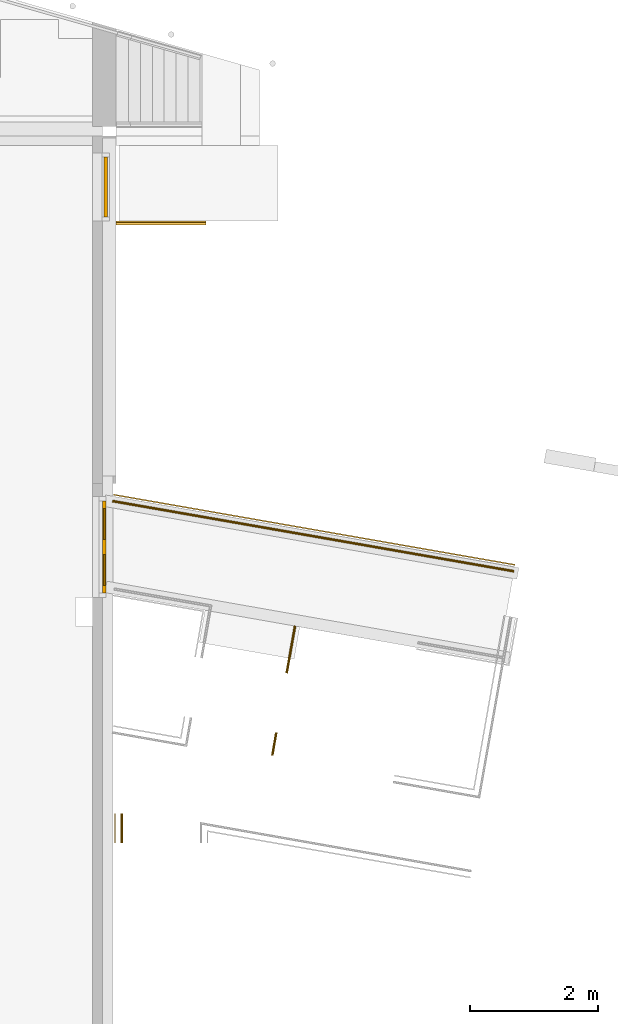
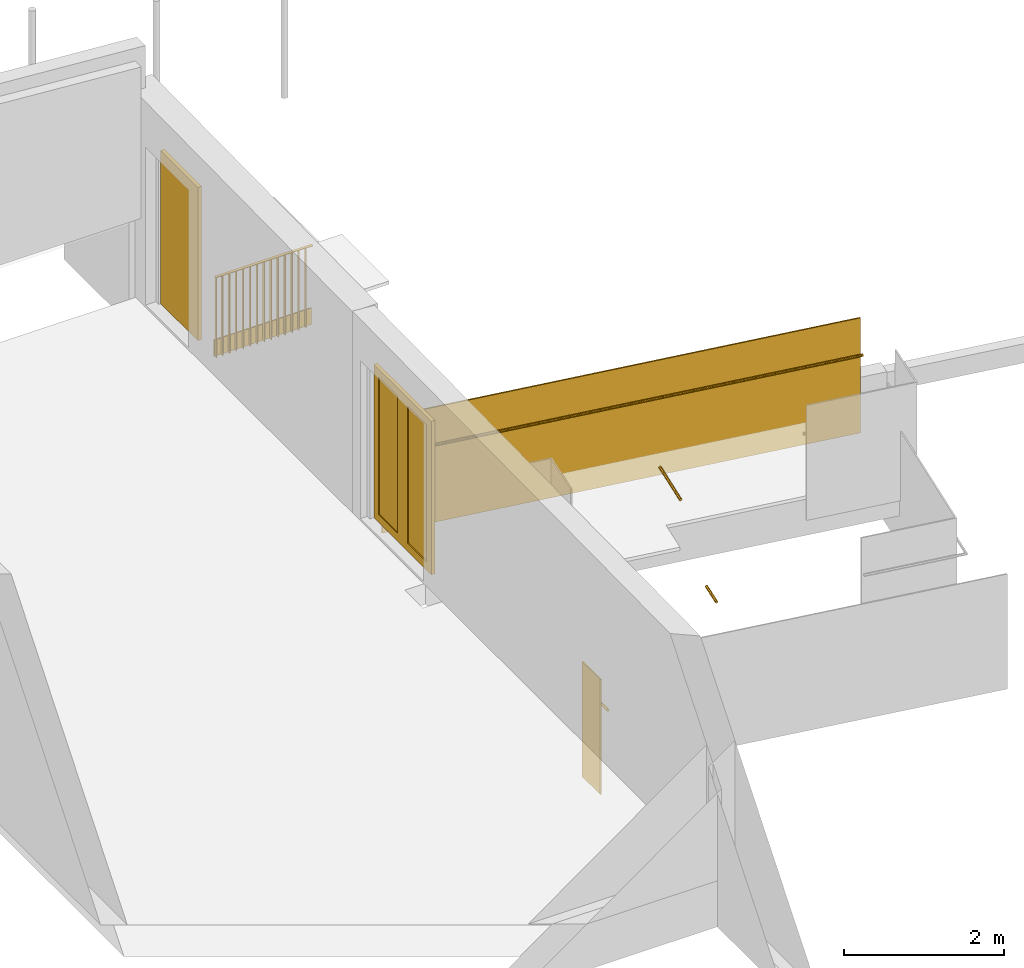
# One storey, part 5 of 9: 5 railings, 2 doors, 2 windows, 2 elements without a shape of their own.
"""IFC2X3 building model written with IfcOpenShell, lengths in millimetres."""

from ifc_helpers import new_model, entity, si_unit, converted_unit, derived_unit, direction, frame, frame_2d, origin, origin_2d_with_axis, place, context, subcontext, project, spatial, polyline, rectangle, circle, outline, extrude, source, transform, mapped, material, type_object, type_shapes, element, aggregate, save


model = new_model("IFC2X3")

# Units and contexts
model_context = context("Model", 3, precision=0.01, world=origin(), true_north=direction((6.12303176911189e-17, 1.0)))
body_context = subcontext(model_context, "Body", "Model", "MODEL_VIEW")
ifc_project = project(units=[si_unit("LENGTHUNIT", "METRE", prefix="MILLI"), si_unit("AREAUNIT", "SQUARE_METRE"), si_unit("VOLUMEUNIT", "CUBIC_METRE"), converted_unit("PLANEANGLEUNIT", "DEGREE", entity("IfcRatioMeasure", 0.0174532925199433), si_unit("PLANEANGLEUNIT", "RADIAN"), dimensions=[0, 0, 0, 0, 0, 0, 0]), si_unit("MASSUNIT", "GRAM", prefix="KILO"), derived_unit("MASSDENSITYUNIT", [(si_unit("MASSUNIT", "GRAM", prefix="KILO"), 1), (si_unit("LENGTHUNIT", "METRE"), -3)]), si_unit("TIMEUNIT", "SECOND"), si_unit("FREQUENCYUNIT", "HERTZ"), si_unit("THERMODYNAMICTEMPERATUREUNIT", "DEGREE_CELSIUS"), derived_unit("THERMALTRANSMITTANCEUNIT", [(si_unit("MASSUNIT", "GRAM", prefix="KILO"), 1), (si_unit("THERMODYNAMICTEMPERATUREUNIT", "KELVIN"), -1), (si_unit("TIMEUNIT", "SECOND"), -3)]), derived_unit("VOLUMETRICFLOWRATEUNIT", [(si_unit("LENGTHUNIT", "METRE"), 3), (si_unit("TIMEUNIT", "SECOND"), -1)]), si_unit("ELECTRICCURRENTUNIT", "AMPERE"), si_unit("ELECTRICVOLTAGEUNIT", "VOLT"), si_unit("POWERUNIT", "WATT"), si_unit("FORCEUNIT", "NEWTON", prefix="KILO"), si_unit("ILLUMINANCEUNIT", "LUX"), si_unit("LUMINOUSFLUXUNIT", "LUMEN"), si_unit("LUMINOUSINTENSITYUNIT", "CANDELA"), derived_unit("USERDEFINED", [(si_unit("MASSUNIT", "GRAM", prefix="KILO"), -1), (si_unit("LENGTHUNIT", "METRE"), -2), (si_unit("TIMEUNIT", "SECOND"), 3), (si_unit("LUMINOUSFLUXUNIT", "LUMEN"), 1)]), derived_unit("LINEARVELOCITYUNIT", [(si_unit("LENGTHUNIT", "METRE"), 1), (si_unit("TIMEUNIT", "SECOND"), -1)]), si_unit("PRESSUREUNIT", "PASCAL"), derived_unit("USERDEFINED", [(si_unit("LENGTHUNIT", "METRE"), -2), (si_unit("MASSUNIT", "GRAM", prefix="KILO"), 1), (si_unit("TIMEUNIT", "SECOND"), -2)])], contexts=[model_context])

# Site, building, storey
site_placement = place(None, origin())
site = spatial("IfcSite", under=ifc_project, at=site_placement, Name="<Kadaster Gemeente>;<Kadaster nummer>;<Kadaster sectie>", CompositionType="ELEMENT")
building_placement = place(site_placement, origin())
building = spatial("IfcBuilding", under=site, at=building_placement, Name="JRCZ Middelburg", CompositionType="ELEMENT")
storey_placement = place(building_placement, frame((0.0, 0.0, 3700.0)))
storey = spatial("IfcBuildingStorey", under=building, at=storey_placement, Name="02 tweede verdieping", CompositionType="ELEMENT", Elevation=3700.0)

# Curtain wall, door
curtain_wall_type_1 = type_object("IfcCurtainWallType", Name="Curtain Wall:NLRS_32_CW_Ontwerpkozijn 067x114 binnen", PredefinedType="NOTDEFINED")
curtain_wall_1_placement = place(storey_placement, frame((0.0, 0.0, -3700.0)))
curtain_wall_1 = element("IfcCurtainWall", 1, at=curtain_wall_1_placement, inside=storey, type_object=curtain_wall_type_1, Name="Curtain Wall:NLRS_32_CW_Ontwerpkozijn 067x114 binnen", ObjectType="Curtain Wall:NLRS_32_CW_Ontwerpkozijn 067x114 binnen")
door_style_1 = type_object("IfcDoorStyle", Name="0std binnendeur", ConstructionType="NOTDEFINED", OperationType="NOTDEFINED", ParameterTakesPrecedence=False, Sizeable=False)
shared_shape_1 = source(origin(), body_context, "Body", "SweptSolid", [
    extrude(outline(polyline([(-358.249999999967, -1166.5), (358.249999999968, -1166.5), (358.249999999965, 1166.5), (-358.249999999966, 1166.5), (-358.249999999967, -1166.5)]), holes=[polyline([(-238.249999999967, -1046.49999999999), (-238.249999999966, 1046.49999999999), (238.250000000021, 1046.49999999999), (238.250000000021, -1046.49999999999), (-238.249999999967, -1046.49999999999)])]), frame((358.249999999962, 27.0, 1166.5), z_axis=(0.0, 1.0, 0.0), x_axis=(1.0, 0.0, 0.0)), (0.0, 0.0, 1.0), 27.0),
    extrude(outline(polyline([(-358.25, -1166.5), (358.249999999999, -1166.5), (358.25, 1166.5), (-358.249999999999, 1166.5), (-358.25, -1166.5)]), holes=[polyline([(-238.25, -1046.49999999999), (-238.249999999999, 1046.5), (238.25, 1046.5), (238.25, -1046.49999999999), (-238.25, -1046.49999999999)])]), frame((-358.25, 27.0, 1166.5), z_axis=(0.0, 1.0, 0.0), x_axis=(1.0, 0.0, 0.0)), (0.0, 0.0, 1.0), 27.0),
    extrude(outline(polyline([(-358.25, -1166.5), (358.249999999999, -1166.5), (358.25, 1166.5), (-358.249999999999, 1166.5), (-358.25, -1166.5)]), holes=[polyline([(-238.25, -1046.49999999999), (-238.249999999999, 1046.49999999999), (238.25, 1046.49999999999), (238.25, -1046.49999999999), (-238.25, -1046.49999999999)])]), frame((-358.25, 0.0, 1166.5), z_axis=(0.0, 1.0, 0.0), x_axis=(1.0, 0.0, 0.0)), (0.0, 0.0, 1.0), 27.0000000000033),
    extrude(outline(polyline([(-358.25, -1166.5), (358.249999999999, -1166.5), (358.25, 1166.5), (-358.249999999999, 1166.5), (-358.25, -1166.5)]), holes=[polyline([(-238.25, -1046.49999999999), (-238.249999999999, 1046.49999999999), (238.25, 1046.49999999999), (238.25, -1046.49999999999), (-238.25, -1046.49999999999)])]), frame((358.249999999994, 0.0, 1166.5), z_axis=(0.0, 1.0, 0.0), x_axis=(1.0, 0.0, 0.0)), (0.0, 0.0, 1.0), 26.9999999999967),
])
type_shapes(door_style_1, [shared_shape_1])
door_1_placement = place(curtain_wall_1_placement, frame((17203.0, 17998.5893841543, 3700.0), z_axis=(0.0, 0.0, 1.0), x_axis=(0.0, -1.0, 0.0)))
door_1 = element("IfcDoor", 2, at=door_1_placement, type_object=door_style_1, Name="31_DO_stolpdeur_1:0std binnendeur", ObjectType="31_DO_stolpdeur_1:0std binnendeur", OverallHeight=2333.00000000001, OverallWidth=1433.00000000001, context=body_context, shape_type="MappedRepresentation", body=[
    mapped(shared_shape_1, transform((0.0, 0.0, 0.0), scale=1.0)),
])
aggregate(curtain_wall_1, [door_1])

# Windows
ifc_material_1 = material(Name="o1_glas")
window_style = type_object("IfcWindowStyle", Name="glas 2", ConstructionType="NOTDEFINED", OperationType="NOTDEFINED", ParameterTakesPrecedence=False, Sizeable=False, material=ifc_material_1)
shared_shape_2 = source(origin(), body_context, "Body", "SweptSolid", [
    extrude(rectangle(XDim=24.0000000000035, YDim=476.500000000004, at=origin_2d_with_axis()), frame((0.0, 0.0, 0.0), z_axis=(0.0, 0.0, 1.0), x_axis=(0.0, -1.0, 0.0)), (0.0, 0.0, 1.0), 2092.99999999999),
])
type_shapes(window_style, [shared_shape_2])
for number, where, z_axis, x_axis, name in (
    (3, (17230.0, 17640.3393841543, 120.0), (0.0, 0.0, 1.0), (0.0, -1.0, 0.0), "WI_subvak:glas 2"),
    (4, (17230.0, 18356.8393841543, 120.0), (0.0, 0.0, 1.0), (0.0, -1.0, 0.0), "WI_subvak:glas 2"),
):
    element("IfcWindow", number, at=place(storey_placement, frame(where, z_axis=z_axis, x_axis=x_axis)), inside=storey, type_object=window_style, material=ifc_material_1, Name=name, ObjectType="WI_subvak:glas 2", OverallHeight=2172.99999999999, OverallWidth=476.500000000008, context=body_context, shape_type="MappedRepresentation", body=[
        mapped(shared_shape_2, transform((0.0, 0.0, 0.0), scale=1.0)),
    ])

# Curtain wall, door
curtain_wall_type_2 = type_object("IfcCurtainWallType", Name="Curtain Wall:NLRS_31_CW_Ontwerpkozijn 067x114", PredefinedType="NOTDEFINED")
curtain_wall_2_placement = place(storey_placement, frame((0.0, 0.0, -3700.0)))
curtain_wall_2 = element("IfcCurtainWall", 5, at=curtain_wall_2_placement, inside=storey, type_object=curtain_wall_type_2, Name="Curtain Wall:NLRS_31_CW_Ontwerpkozijn 067x114", ObjectType="Curtain Wall:NLRS_31_CW_Ontwerpkozijn 067x114")
ifc_material_2 = material(Name="RBM_a_deur_paneel")
door_style_2 = type_object("IfcDoorStyle", Name="deur", ConstructionType="NOTDEFINED", OperationType="NOTDEFINED", ParameterTakesPrecedence=False, Sizeable=False, material=ifc_material_2)
shared_shape_3 = source(origin(), body_context, "Body", "SweptSolid", [
    extrude(rectangle(XDim=27.0, YDim=930.000000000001, at=frame_2d((8.88178419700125e-15, 0.0), x_axis=(1.0, 0.0))), frame((0.0, 70.4999999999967, 0.0), z_axis=(0.0, 0.0, 1.0), x_axis=(0.0, 1.0, 0.0)), (0.0, 0.0, 1.0), 2333.00000000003),
    extrude(rectangle(XDim=26.9999999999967, YDim=930.000000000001, at=origin_2d_with_axis()), frame((0.0, 43.4999999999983, 0.0), z_axis=(0.0, 0.0, 1.0), x_axis=(0.0, 1.0, 0.0)), (0.0, 0.0, 1.0), 2333.00000000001),
])
type_shapes(door_style_2, [shared_shape_3])
door_2_placement = place(curtain_wall_2_placement, frame((17197.0, 23606.0, 3700.0), z_axis=(0.0, 0.0, 1.0), x_axis=(0.0, -1.0, 0.0)))
door_2 = element("IfcDoor", 6, at=door_2_placement, type_object=door_style_2, material=ifc_material_2, Name="31_DO_deur_0:deur", ObjectType="31_DO_deur_0:deur", OverallHeight=2333.00000000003, OverallWidth=930.000000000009, context=body_context, shape_type="MappedRepresentation", body=[
    mapped(shared_shape_3, transform((0.0, 0.0, 0.0), scale=1.0)),
])
aggregate(curtain_wall_2, [door_2])

# Railings
railing_1_placement = place(storey_placement, origin())
element("IfcRailing", 7, at=railing_1_placement, inside=storey, Name="Railing:RBM_RA_handleuning", ObjectType="Railing:RBM_RA_handleuning", PredefinedType="NOTDEFINED", context=body_context, shape_type="SweptSolid", body=[
    extrude(circle(Radius=19.05, at=origin_2d_with_axis()), frame((20070.8292578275, 16033.8693315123, 895.35), z_axis=(0.175101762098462, 0.984550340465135, 0.0), x_axis=(0.984550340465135, -0.175101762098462, 0.0)), (0.0, 0.0, 1.0), 750.000000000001),
])
railing_2_placement = place(storey_placement, origin())
element("IfcRailing", 8, at=railing_2_placement, inside=storey, Name="Railing:RBM_RA_handleuning", ObjectType="Railing:RBM_RA_handleuning", PredefinedType="NOTDEFINED", context=body_context, shape_type="SweptSolid", body=[
    extrude(circle(Radius=19.05, at=origin_2d_with_axis()), frame((19846.9414446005, 14750.3117022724, 195.35), z_axis=(0.170907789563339, 0.985287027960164, 0.0), x_axis=(0.985287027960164, -0.170907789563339, 0.0)), (0.0, 0.0, 1.0), 364.351689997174),
])
ifc_material_3 = material(Name="Glass_RIPO")
railing_3_placement = place(storey_placement, origin())
element("IfcRailing", 9, at=railing_3_placement, inside=storey, material=ifc_material_3, Name="Railing:RBM_RA_glasbalustrade", ObjectType="Railing:RBM_RA_glasbalustrade", PredefinedType="NOTDEFINED", context=body_context, shape_type="SweptSolid", body=[
    extrude(rectangle(XDim=6350.26027417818, YDim=19.9999999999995, at=origin_2d_with_axis()), frame((20500.5081355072, 18267.3328318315, -350.0), z_axis=(0.0, 0.0, 1.0), x_axis=(-0.985063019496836, 0.172194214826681, 0.0)), (0.0, 0.0, 1.0), 1750.0),
    extrude(circle(Radius=19.05, at=frame_2d((-3.72926910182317e-13, 0.0), x_axis=(1.0, 0.0))), frame((17355.3788008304, 18714.383495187, 895.35), z_axis=(0.985063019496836, -0.172194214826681, 0.0), x_axis=(-0.172194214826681, -0.985063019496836, 0.0)), (0.0, 0.0, 1.0), 6350.26027417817),
])
railing_4_placement = place(storey_placement, origin())
element("IfcRailing", 10, at=railing_4_placement, inside=storey, material=ifc_material_3, Name="Railing:RBM_RA_glasbalustrade", ObjectType="Railing:RBM_RA_glasbalustrade", PredefinedType="NOTDEFINED", context=body_context, shape_type="SweptSolid", body=[
    extrude(rectangle(XDim=457.160556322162, YDim=19.9999999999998, at=frame_2d((0.0, 2.16626716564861e-12), x_axis=(1.0, 0.0))), frame((17398.0, 13619.1872300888, -1050.0), z_axis=(0.0, 0.0, 1.0), x_axis=(0.0, 1.0, 0.0)), (0.0, 0.0, 1.0), 1750.0),
    extrude(circle(Radius=19.05, at=origin_2d_with_axis()), frame((17499.2000000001, 13390.6069519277, 195.35), z_axis=(0.0, 1.0, 0.0), x_axis=(-1.0, 0.0, 0.0)), (0.0, 0.0, 1.0), 457.160556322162),
])
ifc_material_4 = material(Name="h2_staal_gen")
railing_5_placement = place(storey_placement, origin())
element("IfcRailing", 11, at=railing_5_placement, inside=storey, material=ifc_material_4, Name="Railing:NLRS_90_RA_LB_hekwerk spijlen staal + bordes strip", ObjectType="Railing:NLRS_90_RA_LB_hekwerk spijlen staal + bordes strip", PredefinedType="NOTDEFINED", context=body_context, shape_type="SweptSolid", body=[
    extrude(rectangle(XDim=9.99999999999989, YDim=39.9999999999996, at=origin_2d_with_axis()), frame((18715.6477994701, 23035.9632551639, -256.0)), (0.0, 0.0, 1.0), 1216.0),
    extrude(rectangle(XDim=9.99999999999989, YDim=39.9999999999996, at=origin_2d_with_axis()), frame((18615.7056585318, 23035.9632551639, -256.0)), (0.0, 0.0, 1.0), 1216.0),
    extrude(rectangle(XDim=9.99999999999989, YDim=39.9999999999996, at=frame_2d((-2.16582307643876e-12, 0.0), x_axis=(1.0, 0.0))), frame((18515.7635175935, 23035.9632551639, -256.0)), (0.0, 0.0, 1.0), 1216.0),
    extrude(rectangle(XDim=9.99999999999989, YDim=39.9999999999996, at=origin_2d_with_axis()), frame((18415.8213766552, 23035.9632551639, -256.0)), (0.0, 0.0, 1.0), 1216.0),
    extrude(rectangle(XDim=9.99999999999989, YDim=39.9999999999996, at=origin_2d_with_axis()), frame((18315.8792357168, 23035.9632551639, -256.0)), (0.0, 0.0, 1.0), 1216.0),
    extrude(rectangle(XDim=9.99999999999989, YDim=39.9999999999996, at=frame_2d((2.16582307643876e-12, 0.0), x_axis=(1.0, 0.0))), frame((18215.9370947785, 23035.9632551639, -256.0)), (0.0, 0.0, 1.0), 1216.0),
    extrude(rectangle(XDim=9.99999999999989, YDim=39.9999999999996, at=origin_2d_with_axis()), frame((18115.9949538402, 23035.9632551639, -256.0)), (0.0, 0.0, 1.0), 1216.0),
    extrude(rectangle(XDim=9.99999999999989, YDim=39.9999999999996, at=origin_2d_with_axis()), frame((18016.0528129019, 23035.9632551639, -256.0)), (0.0, 0.0, 1.0), 1216.0),
    extrude(rectangle(XDim=9.99999999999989, YDim=39.9999999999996, at=frame_2d((2.16582307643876e-12, 0.0), x_axis=(1.0, 0.0))), frame((17916.1106719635, 23035.9632551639, -256.0)), (0.0, 0.0, 1.0), 1216.0),
    extrude(rectangle(XDim=9.99999999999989, YDim=39.9999999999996, at=origin_2d_with_axis()), frame((17816.1685310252, 23035.9632551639, -256.0)), (0.0, 0.0, 1.0), 1216.0),
    extrude(rectangle(XDim=9.99999999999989, YDim=39.9999999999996, at=frame_2d((-2.16582307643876e-12, 0.0), x_axis=(1.0, 0.0))), frame((17716.2263900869, 23035.9632551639, -256.0)), (0.0, 0.0, 1.0), 1216.0),
    extrude(rectangle(XDim=9.99999999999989, YDim=39.9999999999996, at=frame_2d((2.16582307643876e-12, 0.0), x_axis=(1.0, 0.0))), frame((17616.2842491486, 23035.9632551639, -256.0)), (0.0, 0.0, 1.0), 1216.0),
    extrude(rectangle(XDim=9.99999999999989, YDim=39.9999999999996, at=origin_2d_with_axis()), frame((17516.3421082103, 23035.9632551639, -256.0)), (0.0, 0.0, 1.0), 1216.0),
    extrude(rectangle(XDim=9.99999999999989, YDim=39.9999999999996, at=origin_2d_with_axis()), frame((17426.3999672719, 23035.9632551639, -256.0)), (0.0, 0.0, 1.0), 1216.0),
    extrude(rectangle(XDim=1399.1899731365, YDim=39.9999999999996, at=frame_2d((0.0, 2.16537898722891e-12), x_axis=(1.0, 0.0))), frame((18115.5949865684, 23036.0, 960.0)), (0.0, 0.0, 1.0), 9.99999999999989),
    extrude(rectangle(XDim=1399.1899731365, YDim=18.0000000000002, at=frame_2d((0.0, 4.33164615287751e-12), x_axis=(1.0, 0.0))), frame((18115.5949865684, 23065.0, -255.0)), (0.0, 0.0, 1.0), 250.0),
])

save(model, "model.ifc")
